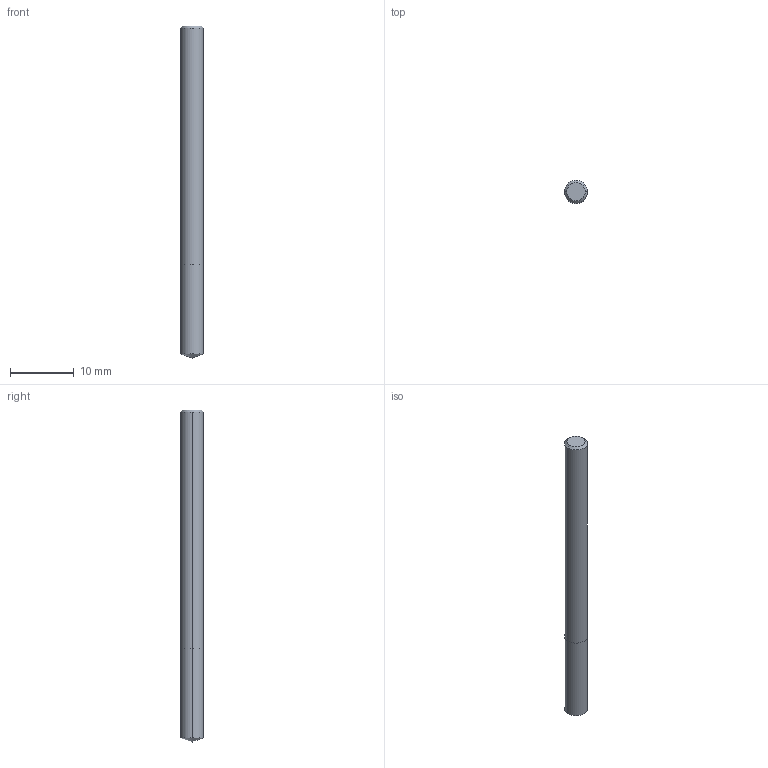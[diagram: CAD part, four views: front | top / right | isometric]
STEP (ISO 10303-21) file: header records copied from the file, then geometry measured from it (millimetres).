
FILE_DESCRIPTION (( 'STEP AP214' ), '1' );
FILE_NAME ('303.036.00_3D-model.step', '2022-02-19T15:46:21', ( '' ), ( '' ), 'SwSTEP 2.0', 'SolidWorks 2020', '' );
FILE_SCHEMA (( 'AUTOMOTIVE_DESIGN' ));
Length unit declared in the file: millimetre
Products named in the file (3): 303.036.00_3D-model; CUT-3D^Baugr7; NOCUT-3D^Baugr7
Assembly tree (2 placements, depth 2):
  303.036.00_3D-model
    CUT-3D^Baugr7
    NOCUT-3D^Baugr7
Bounding box: 3.6 x 3.6 x 52 mm (x, y, z)
Volume: 524.2 mm3; surface area: 619.5 mm2
Topology: 2 solids, 2 shells, 11 faces, 20 edges, 11 vertices
Faces by surface type: cone 4, cylinder 4, plane 3
Entity records: 380 total; most frequent: DIRECTION 66, CARTESIAN_POINT 48, ORIENTED_EDGE 36, AXIS2_PLACEMENT_3D 29, EDGE_CURVE 18, EDGE_LOOP 11, FACE_OUTER_BOUND 11, ADVANCED_FACE 11
